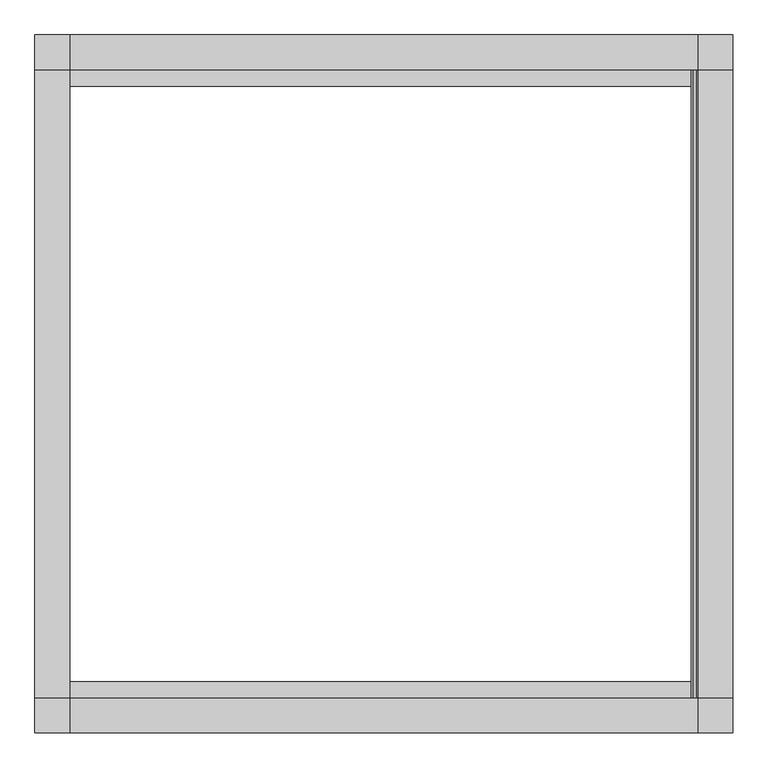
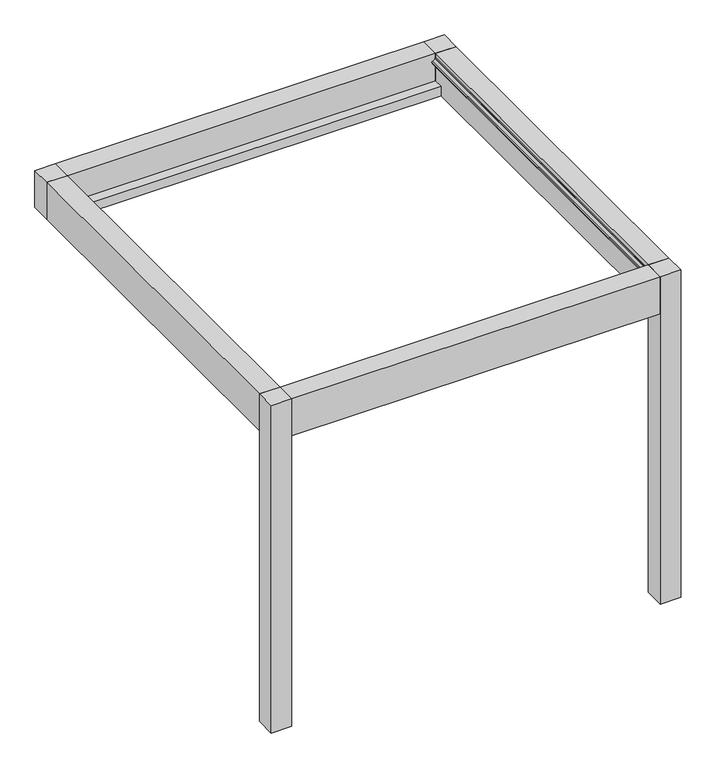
"""IFC4 building model written with IfcOpenShell, lengths in millimetres: proxy geometry, Renson_Amani_Patio_Cover : Renson_Amani_Patio_Cover."""

import ifcopenshell
import ifcopenshell.guid

model = None  # the IFC model being written
_history = None  # IfcOwnerHistory: only IFC2X3 demands one
_inside = {}  # id of a spatial element -> (the spatial element, [elements in it])
_under = {}  # id of a project, library or spatial element -> (it, [spatial elements below it])
_declared = {}  # id of a project -> (the project, [libraries it declares])
_typed = {}  # id of a type object -> (the type object, [elements of that type])
_made_of = {}  # id of a material, layer set ... -> (it, [elements and type objects made of it])


def new_model(schema):
    """Start an empty IFC model of exactly this schema.

    Asked for "IFC4X3", IfcOpenShell would pick the latest addendum, in which some entities
    have other attributes; the version numbers below select the first issue.
    IFC2X3 requires an IfcOwnerHistory on every rooted entity: one is made here for all.
    """
    global model, _history
    if schema == "IFC4X3":
        model = ifcopenshell.file(schema_version=(4, 3, 0, 0))
    else:
        model = ifcopenshell.file(schema=schema)
    _inside.clear()
    _under.clear()
    _declared.clear()
    _typed.clear()
    _made_of.clear()
    _history = None
    if model.schema == "IFC2X3":
        org = make("IfcOrganization", Name="unknown")
        user = make(
            "IfcPersonAndOrganization",
            ThePerson=make("IfcPerson", FamilyName="unknown"),
            TheOrganization=org,
        )
        app = make(
            "IfcApplication",
            ApplicationDeveloper=org,
            Version="unknown",
            ApplicationFullName="unknown",
            ApplicationIdentifier="unknown",
        )
        _history = make(
            "IfcOwnerHistory",
            OwningUser=user,
            OwningApplication=app,
            ChangeAction="ADDED",
            CreationDate=0,
        )
    return model


def make(cls, **values):
    """One entity of the class cls with the attributes given. An attribute that is None is left unset."""
    return model.create_entity(
        cls, **{name: value for name, value in values.items() if value is not None}
    )


def rooted(cls, **values):
    """An entity with a GlobalId (a new one), such as an element, a storey or a relation."""
    return make(cls, GlobalId=ifcopenshell.guid.new(), OwnerHistory=_history, **values)


def si_unit(unit_type, name, prefix=None):
    """IfcSIUnit, for example si_unit("LENGTHUNIT", "METRE", prefix="MILLI")."""
    return make("IfcSIUnit", UnitType=unit_type, Prefix=prefix, Name=name)


def assignment(units):
    """IfcUnitAssignment: the units of a project."""
    return None if units is None else make("IfcUnitAssignment", Units=units)


def point(xyz):
    """IfcCartesianPoint."""
    return None if xyz is None else make("IfcCartesianPoint", Coordinates=xyz)


def direction(xyz):
    """IfcDirection."""
    return None if xyz is None else make("IfcDirection", DirectionRatios=xyz)


def frame(location, z_axis=None, x_axis=None):
    """IfcAxis2Placement3D, a coordinate frame: its origin and axes. An axis left out is left unset."""
    return make(
        "IfcAxis2Placement3D",
        Location=point(location),
        Axis=direction(z_axis),
        RefDirection=direction(x_axis),
    )


def origin():
    """The frame at (0, 0, 0) with its axes left unset."""
    return frame((0.0, 0.0, 0.0))


def origin_with_axes():
    """The frame at (0, 0, 0) with the z axis (0, 0, 1) and the x axis (1, 0, 0) written out."""
    return frame((0.0, 0.0, 0.0), z_axis=(0.0, 0.0, 1.0), x_axis=(1.0, 0.0, 0.0))


def place(relative_to, where):
    """IfcLocalPlacement: puts the frame where relative to a parent placement (None: the world)."""
    return make(
        "IfcLocalPlacement", PlacementRelTo=relative_to, RelativePlacement=where
    )


def context(
    kind, dimensions, precision=None, world=None, true_north=None, identifier=None
):
    """IfcGeometricRepresentationContext, for example the 3D "Model" context."""
    return make(
        "IfcGeometricRepresentationContext",
        ContextIdentifier=identifier,
        ContextType=kind,
        CoordinateSpaceDimension=dimensions,
        Precision=precision,
        WorldCoordinateSystem=world,
        TrueNorth=true_north,
    )


def project(units=None, contexts=None):
    """IfcProject with its units and contexts."""
    return rooted(
        "IfcProject",
        Name="project",
        RepresentationContexts=contexts,
        UnitsInContext=assignment(units),
    )


def spatial(cls, under=None, at=None, **own):
    """A site, building, storey or space (cls), placed at a placement, below another one or the project."""
    s = rooted(cls, ObjectPlacement=at, **own)
    if under is not None:
        _under.setdefault(under.id(), (under, []))[1].append(s)
    return s


def polyline(points):
    """IfcPolyline through the points."""
    return make("IfcPolyline", Points=[point(p) for p in points])


def outline(outer, holes=None, kind="AREA"):
    """IfcArbitraryClosedProfileDef: a profile drawn as a closed curve; with holes, ...WithVoids."""
    if holes is None:
        return make("IfcArbitraryClosedProfileDef", ProfileType=kind, OuterCurve=outer)
    return make(
        "IfcArbitraryProfileDefWithVoids",
        ProfileType=kind,
        OuterCurve=outer,
        InnerCurves=holes,
    )


def extrude(swept, where, along, depth):
    """IfcExtrudedAreaSolid: the profile swept, set in the frame where, extruded along a direction by depth."""
    return make(
        "IfcExtrudedAreaSolid",
        SweptArea=swept,
        Position=where,
        ExtrudedDirection=direction(along),
        Depth=depth,
    )


def shape(context_of_items, identifier, shape_type, items):
    """IfcShapeRepresentation: the items that make up one representation, for example the "Body"."""
    return make(
        "IfcShapeRepresentation",
        ContextOfItems=context_of_items,
        RepresentationIdentifier=identifier,
        RepresentationType=shape_type,
        Items=items,
    )


def source(mapping_origin, context_of_items, identifier, shape_type, items):
    """IfcRepresentationMap: a shape defined once, which mapped items show again and again."""
    return make(
        "IfcRepresentationMap",
        MappingOrigin=mapping_origin,
        MappedRepresentation=shape(context_of_items, identifier, shape_type, items),
    )


def transform(
    local_origin,
    x_axis=None,
    y_axis=None,
    z_axis=None,
    scale=None,
    scale2=None,
    scale3=None,
    uniform=True,
):
    """IfcCartesianTransformationOperator3D, or its non-uniform kind. x_axis, y_axis, z_axis: its Axis1, 2, 3."""
    if uniform:
        return make(
            "IfcCartesianTransformationOperator3D",
            Axis1=direction(x_axis),
            Axis2=direction(y_axis),
            LocalOrigin=point(local_origin),
            Scale=scale,
            Axis3=direction(z_axis),
        )
    return make(
        "IfcCartesianTransformationOperator3DnonUniform",
        Axis1=direction(x_axis),
        Axis2=direction(y_axis),
        LocalOrigin=point(local_origin),
        Scale=scale,
        Axis3=direction(z_axis),
        Scale2=scale2,
        Scale3=scale3,
    )


def mapped(mapping_source, mapping_target):
    """IfcMappedItem: shows the shape of a source again, moved by a transform."""
    return make(
        "IfcMappedItem", MappingSource=mapping_source, MappingTarget=mapping_target
    )


def made_of(thing, what):
    """Note that an element or type object is made of a material, layer set ...; save() writes the relation."""
    if what is not None:
        _made_of.setdefault(what.id(), (what, []))[1].append(thing)
    return thing


def element(
    cls,
    number,
    at=None,
    inside=None,
    cuts=None,
    type_object=None,
    material=None,
    context=None,
    identifier="Body",
    shape_type=None,
    held_by="IfcProductDefinitionShape",
    body=None,
    shapes=None,
    **own,
):
    """One element of the class cls, such as IfcWall. Its Tag is "e" and its number.

    at: its placement. inside: the storey or other place that contains it. cuts: it is an
    opening in that element (IfcRelVoidsElement). A single representation is given by context,
    identifier, shape_type and body (its items); several are given by shapes. held_by: the class
    of the entity that holds the representations. save() writes the other relations.
    """
    e = rooted(cls, Tag="e%d" % number, ObjectPlacement=at, **own)
    if body is not None:
        shapes = [shape(context, identifier, shape_type, body)]
    if shapes is not None:
        e.Representation = make(held_by, Representations=shapes)
    if inside is not None:
        _inside.setdefault(inside.id(), (inside, []))[1].append(e)
    if cuts is not None:
        rooted(
            "IfcRelVoidsElement", RelatingBuildingElement=cuts, RelatedOpeningElement=e
        )
    if type_object is not None:
        _typed.setdefault(type_object.id(), (type_object, []))[1].append(e)
    return made_of(e, material)


def aggregate(whole, parts):
    """IfcRelAggregates: a whole, such as a stair, and the parts it consists of."""
    return rooted("IfcRelAggregates", RelatingObject=whole, RelatedObjects=parts)


def save(model, path):
    """Write the relations noted so far, then the file.

    IfcRelAggregates (storeys below a building ...), IfcRelContainedInSpatialStructure (elements
    in a storey), IfcRelDefinesByType, IfcRelAssociatesMaterial and IfcRelDeclares: one each for
    every whole, place, type object, material and project.
    """
    for whole, parts in _under.values():
        aggregate(whole, parts)
    for where, things in _inside.values():
        rooted(
            "IfcRelContainedInSpatialStructure",
            RelatedElements=things,
            RelatingStructure=where,
        )
    for kind, things in _typed.values():
        rooted("IfcRelDefinesByType", RelatedObjects=things, RelatingType=kind)
    for what, things in _made_of.values():
        rooted("IfcRelAssociatesMaterial", RelatedObjects=things, RelatingMaterial=what)
    for by, libraries in _declared.values():
        rooted("IfcRelDeclares", RelatingContext=by, RelatedDefinitions=libraries)
    model.write(path)


def generic_models_3c630f52(model_context):
    return source(origin(), model_context, "Body", "SweptSolid", [
        extrude(outline(polyline([(1500.0, 1500.0), (1500.0, 1350.0), (1350.0, 1350.0), (1350.0, 1500.0), (1500.0, 1500.0)])), frame((0.0, 0.0, 2250.0), z_axis=(0.0, 0.0, 1.0), x_axis=(1.0, 0.0, 0.0)), (0.0, 0.0, 1.0), 285.0),
        extrude(outline(polyline([(-1350.0, 1500.0), (-1350.0, 1350.0), (-1500.0, 1350.0), (-1500.0, 1500.0), (-1350.0, 1500.0)])), frame((0.0, 0.0, 2250.0), z_axis=(0.0, 0.0, 1.0), x_axis=(1.0, 0.0, 0.0)), (0.0, 0.0, 1.0), 285.0),
        extrude(outline(polyline([(1500.0, -1350.0), (1500.0, -1500.0), (1350.0, -1500.0), (1350.0, -1350.0), (1500.0, -1350.0)])), origin_with_axes(), (0.0, 0.0, 1.0), 2535.0),
        extrude(outline(polyline([(-1350.0, -1350.0), (-1350.0, -1500.0), (-1500.0, -1500.0), (-1500.0, -1350.0), (-1350.0, -1350.0)])), origin_with_axes(), (0.0, 0.0, 1.0), 2535.0),
        extrude(outline(polyline([(-1350.0, -1350.0), (-1500.0, -1350.0), (-1500.0, 1350.0), (-1350.0, 1350.0), (-1350.0, -1350.0)])), frame((0.0, 0.0, 2250.0), z_axis=(0.0, 0.0, 1.0), x_axis=(1.0, 0.0, 0.0)), (0.0, 0.0, 1.0), 285.0),
        extrude(outline(polyline([(2535.0, 1500.0), (2535.0, 1350.0), (2504.6904658, 1350.0), (2504.2449277, 1345.0), (2496.400763, 1345.0), (2480.6555802, 1329.2544156), (2480.6555802, 1319.9090324), (2466.6559373, 1323.6603211), (2466.6559373, 1350.0), (2250.0, 1350.0), (2250.0, 1500.0), (2535.0, 1500.0)])), frame((0.0, -1350.0, 0.0), z_axis=(0.0, 1.0, 0.0), x_axis=(0.0, 0.0, 1.0)), (0.0, 0.0, 1.0), 2700.0),
        extrude(outline(polyline([(-1350.0, 2535.0), (-1350.0, 2322.0), (-1280.0000001, 2322.0), (-1280.0000001, 2250.0), (-1500.0, 2250.0), (-1500.0, 2535.0), (-1350.0, 2535.0)])), frame((-1350.0, 0.0, 0.0), z_axis=(1.0, 0.0, 0.0), x_axis=(0.0, 1.0, 0.0)), (0.0, 0.0, 1.0), 2700.0),
        extrude(outline(polyline([(1500.0, 2250.0), (1280.0000001, 2250.0), (1280.0000001, 2322.0), (1350.0, 2322.0), (1350.0, 2535.0), (1500.0, 2535.0), (1500.0, 2250.0)])), frame((-1350.0, 0.0, 0.0), z_axis=(1.0, 0.0, 0.0), x_axis=(0.0, 1.0, 0.0)), (0.0, 0.0, 1.0), 2700.0),
    ])


if __name__ == "__main__":
    model = new_model("IFC4")
    model_context = context("Model", 3, world=origin())
    ifc_project = project(units=[si_unit("LENGTHUNIT", "METRE", prefix="MILLI")], contexts=[model_context])
    site = spatial("IfcSite", under=ifc_project)
    building = spatial("IfcBuilding", under=site)
    placement = place(None, origin())
    generic_models_shape = generic_models_3c630f52(model_context)
    element("IfcBuildingElementProxy", 1, Name="Renson_Amani_Patio_Cover : Renson_Amani_Patio_Cover", ObjectType="Renson_Amani_Patio_Cover : Renson_Amani_Patio_Cover", at=placement, inside=building, context=model_context, shape_type="MappedRepresentation", body=[
        mapped(generic_models_shape, transform((0.0, 0.0, 0.0), x_axis=(1.0, 0.0, 0.0), y_axis=(0.0, 1.0, 0.0), z_axis=(0.0, 0.0, 1.0))),
    ])
    save(model, "model.ifc")
